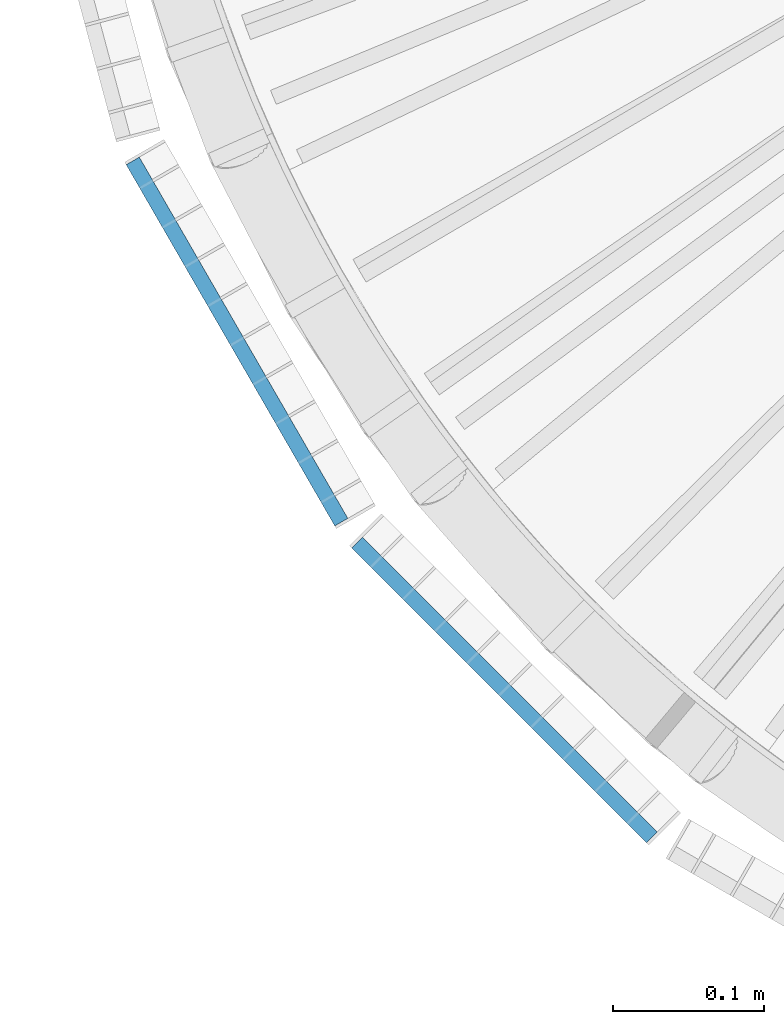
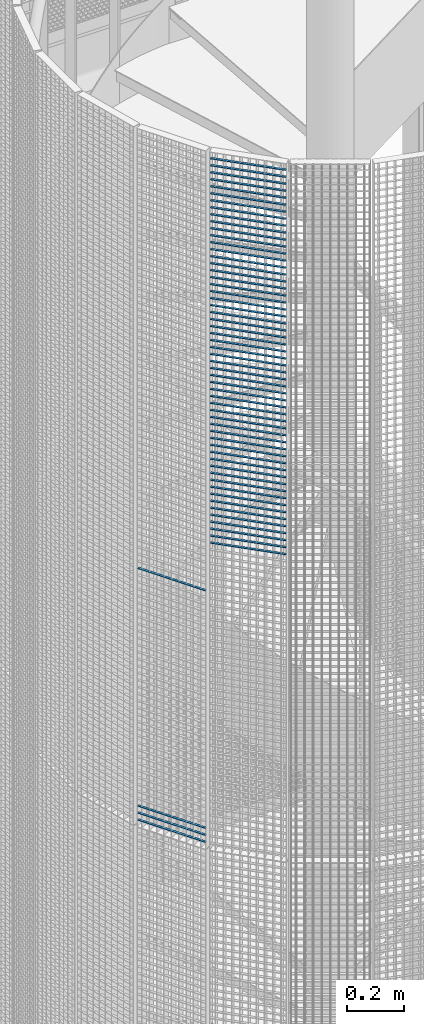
# One storey, part 327 of 1148: 60 beams, 2 elements without a shape of their own.
"""IFC2X3 building model written with IfcOpenShell, lengths in millimetres."""

from ifc_helpers import new_model, si_unit, frame, origin_with_axes, origin_2d_with_axis, place, context, subcontext, project, spatial, rectangle, extrude, material, type_object, element, aggregate, save


model = new_model("IFC2X3")

# Units and contexts
model_context = context("Model", 3, precision=1e-05, world=origin_with_axes())
body_context = subcontext(model_context, "Body", "Model", "MODEL_VIEW")
ifc_project = project(units=[si_unit("LENGTHUNIT", "METRE", prefix="MILLI"), si_unit("AREAUNIT", "SQUARE_METRE"), si_unit("VOLUMEUNIT", "CUBIC_METRE"), si_unit("MASSUNIT", "GRAM", prefix="KILO"), si_unit("TIMEUNIT", "SECOND"), si_unit("PLANEANGLEUNIT", "RADIAN"), si_unit("SOLIDANGLEUNIT", "STERADIAN"), si_unit("THERMODYNAMICTEMPERATUREUNIT", "DEGREE_CELSIUS"), si_unit("LUMINOUSINTENSITYUNIT", "LUMEN")], contexts=[model_context])

# Site, building, storey
site_placement = place(None, origin_with_axes())
site = spatial("IfcSite", under=ifc_project, at=site_placement, Name="Undefined", CompositionType="ELEMENT")
building_placement = place(site_placement, origin_with_axes())
building = spatial("IfcBuilding", under=site, at=building_placement, Name="Undefined", CompositionType="ELEMENT")
storey_placement = place(building_placement, origin_with_axes())
storey = spatial("IfcBuildingStorey", under=building, at=storey_placement, Name="Undefined", CompositionType="ELEMENT", Elevation=0.0)

# Assembly, beams
assembly_1_placement = place(storey_placement, origin_with_axes())
assembly_1 = element("IfcElementAssembly", 1, at=assembly_1_placement, inside=storey, Name="BORDURE", AssemblyPlace="NOTDEFINED", PredefinedType="NOTDEFINED")
ifc_material = material(Name="STEEL/S235JR")
beam_type = type_object("IfcBeamType", Name="PL2*10", PredefinedType="NOTDEFINED")
beam_1_placement = place(assembly_1_placement, frame((20704.6960350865, -676.248044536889, 15090.0), z_axis=(-0.866025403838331, -0.499999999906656, 0.0), x_axis=(-0.49999999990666, 0.866025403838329, 0.0)))
beam_1 = element("IfcBeam", 2, at=beam_1_placement, type_object=beam_type, material=ifc_material, Name="ENTRETOISE", context=body_context, shape_type="SweptSolid", body=[
    extrude(rectangle(XDim=2.0, YDim=10.0, at=origin_2d_with_axis()), frame((275.999999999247, 9.09494701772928e-13, 1.53210777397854e-14), z_axis=(-1.0, 0.0, 0.0), x_axis=(0.0, -1.0, 0.0)), (0.0, 0.0, 1.0), 276.0),
])
beam_2_placement = place(assembly_1_placement, frame((20704.6960350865, -676.248044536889, 15060.0), z_axis=(-0.866025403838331, -0.499999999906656, 0.0), x_axis=(-0.49999999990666, 0.866025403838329, 0.0)))
beam_2 = element("IfcBeam", 3, at=beam_2_placement, type_object=beam_type, material=ifc_material, Name="ENTRETOISE", context=body_context, shape_type="SweptSolid", body=[
    extrude(rectangle(XDim=2.0, YDim=10.0, at=origin_2d_with_axis()), frame((275.999999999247, 9.09494701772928e-13, 1.53210777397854e-14), z_axis=(-1.0, 0.0, 0.0), x_axis=(0.0, -1.0, 0.0)), (0.0, 0.0, 1.0), 276.0),
])
beam_3_placement = place(assembly_1_placement, frame((20704.6960350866, -676.248044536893, 16110.0), z_axis=(-0.866025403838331, -0.499999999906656, 0.0), x_axis=(-0.49999999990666, 0.866025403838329, 0.0)))
beam_3 = element("IfcBeam", 4, at=beam_3_placement, type_object=beam_type, material=ifc_material, Name="ENTRETOISE", context=body_context, shape_type="SweptSolid", body=[
    extrude(rectangle(XDim=2.0, YDim=10.0, at=origin_2d_with_axis()), frame((275.999999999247, 9.09494701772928e-13, 1.53210777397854e-14), z_axis=(-1.0, 0.0, 0.0), x_axis=(0.0, -1.0, 0.0)), (0.0, 0.0, 1.0), 276.0),
])
beam_4_placement = place(assembly_1_placement, frame((20704.6960350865, -676.248044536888, 15030.0), z_axis=(-0.866025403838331, -0.499999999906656, 0.0), x_axis=(-0.49999999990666, 0.866025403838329, 0.0)))
beam_4 = element("IfcBeam", 5, at=beam_4_placement, type_object=beam_type, material=ifc_material, Name="ENTRETOISE", context=body_context, shape_type="SweptSolid", body=[
    extrude(rectangle(XDim=2.0, YDim=10.0, at=origin_2d_with_axis()), frame((275.999999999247, 9.09494701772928e-13, 1.53210777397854e-14), z_axis=(-1.0, 0.0, 0.0), x_axis=(0.0, -1.0, 0.0)), (0.0, 0.0, 1.0), 276.0),
])
aggregate(assembly_1, [beam_1, beam_2, beam_3, beam_4])

assembly_2_placement = place(storey_placement, origin_with_axes())
assembly_2 = element("IfcElementAssembly", 6, at=assembly_2_placement, inside=storey, Name="BORDURE", AssemblyPlace="NOTDEFINED", PredefinedType="NOTDEFINED")
beam_5_placement = place(assembly_2_placement, frame((20910.2286510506, -884.927168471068, 17970.0), z_axis=(-0.70710678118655, -0.707106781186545, 0.0), x_axis=(-0.707106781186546, 0.707106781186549, 0.0)))
beam_5 = element("IfcBeam", 7, at=beam_5_placement, type_object=beam_type, material=ifc_material, Name="ENTRETOISE", context=body_context, shape_type="SweptSolid", body=[
    extrude(rectangle(XDim=2.0, YDim=10.0, at=origin_2d_with_axis()), frame((275.999999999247, 9.09494701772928e-13, 1.53210777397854e-14), z_axis=(-1.0, 0.0, 0.0), x_axis=(0.0, -1.0, 0.0)), (0.0, 0.0, 1.0), 276.0),
])
beam_6_placement = place(assembly_2_placement, frame((20910.2286510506, -884.927168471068, 17940.0), z_axis=(-0.70710678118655, -0.707106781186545, 0.0), x_axis=(-0.707106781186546, 0.707106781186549, 0.0)))
beam_6 = element("IfcBeam", 8, at=beam_6_placement, type_object=beam_type, material=ifc_material, Name="ENTRETOISE", context=body_context, shape_type="SweptSolid", body=[
    extrude(rectangle(XDim=2.0, YDim=10.0, at=origin_2d_with_axis()), frame((275.999999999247, 9.09494701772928e-13, 1.53210777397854e-14), z_axis=(-1.0, 0.0, 0.0), x_axis=(0.0, -1.0, 0.0)), (0.0, 0.0, 1.0), 276.0),
])
beam_7_placement = place(assembly_2_placement, frame((20910.2286510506, -884.927168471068, 17910.0), z_axis=(-0.70710678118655, -0.707106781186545, 0.0), x_axis=(-0.707106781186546, 0.707106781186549, 0.0)))
beam_7 = element("IfcBeam", 9, at=beam_7_placement, type_object=beam_type, material=ifc_material, Name="ENTRETOISE", context=body_context, shape_type="SweptSolid", body=[
    extrude(rectangle(XDim=2.0, YDim=10.0, at=origin_2d_with_axis()), frame((275.999999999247, 9.09494701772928e-13, 1.53210777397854e-14), z_axis=(-1.0, 0.0, 0.0), x_axis=(0.0, -1.0, 0.0)), (0.0, 0.0, 1.0), 276.0),
])
beam_8_placement = place(assembly_2_placement, frame((20910.2286510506, -884.927168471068, 17880.0), z_axis=(-0.70710678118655, -0.707106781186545, 0.0), x_axis=(-0.707106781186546, 0.707106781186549, 0.0)))
beam_8 = element("IfcBeam", 10, at=beam_8_placement, type_object=beam_type, material=ifc_material, Name="ENTRETOISE", context=body_context, shape_type="SweptSolid", body=[
    extrude(rectangle(XDim=2.0, YDim=10.0, at=origin_2d_with_axis()), frame((275.999999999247, 9.09494701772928e-13, 1.53210777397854e-14), z_axis=(-1.0, 0.0, 0.0), x_axis=(0.0, -1.0, 0.0)), (0.0, 0.0, 1.0), 276.0),
])
beam_9_placement = place(assembly_2_placement, frame((20910.2286510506, -884.927168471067, 17850.0), z_axis=(-0.70710678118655, -0.707106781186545, 0.0), x_axis=(-0.707106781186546, 0.707106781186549, 0.0)))
beam_9 = element("IfcBeam", 11, at=beam_9_placement, type_object=beam_type, material=ifc_material, Name="ENTRETOISE", context=body_context, shape_type="SweptSolid", body=[
    extrude(rectangle(XDim=2.0, YDim=10.0, at=origin_2d_with_axis()), frame((275.999999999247, 9.09494701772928e-13, 1.53210777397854e-14), z_axis=(-1.0, 0.0, 0.0), x_axis=(0.0, -1.0, 0.0)), (0.0, 0.0, 1.0), 276.0),
])
beam_10_placement = place(assembly_2_placement, frame((20910.2286510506, -884.927168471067, 17820.0), z_axis=(-0.70710678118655, -0.707106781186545, 0.0), x_axis=(-0.707106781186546, 0.707106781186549, 0.0)))
beam_10 = element("IfcBeam", 12, at=beam_10_placement, type_object=beam_type, material=ifc_material, Name="ENTRETOISE", context=body_context, shape_type="SweptSolid", body=[
    extrude(rectangle(XDim=2.0, YDim=10.0, at=origin_2d_with_axis()), frame((275.999999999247, 9.09494701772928e-13, 1.53210777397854e-14), z_axis=(-1.0, 0.0, 0.0), x_axis=(0.0, -1.0, 0.0)), (0.0, 0.0, 1.0), 276.0),
])
beam_11_placement = place(assembly_2_placement, frame((20910.2286510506, -884.927168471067, 17790.0), z_axis=(-0.70710678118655, -0.707106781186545, 0.0), x_axis=(-0.707106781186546, 0.707106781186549, 0.0)))
beam_11 = element("IfcBeam", 13, at=beam_11_placement, type_object=beam_type, material=ifc_material, Name="ENTRETOISE", context=body_context, shape_type="SweptSolid", body=[
    extrude(rectangle(XDim=2.0, YDim=10.0, at=origin_2d_with_axis()), frame((275.999999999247, 9.09494701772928e-13, 1.53210777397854e-14), z_axis=(-1.0, 0.0, 0.0), x_axis=(0.0, -1.0, 0.0)), (0.0, 0.0, 1.0), 276.0),
])
beam_12_placement = place(assembly_2_placement, frame((20910.2286510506, -884.927168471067, 17760.0), z_axis=(-0.70710678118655, -0.707106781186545, 0.0), x_axis=(-0.707106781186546, 0.707106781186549, 0.0)))
beam_12 = element("IfcBeam", 14, at=beam_12_placement, type_object=beam_type, material=ifc_material, Name="ENTRETOISE", context=body_context, shape_type="SweptSolid", body=[
    extrude(rectangle(XDim=2.0, YDim=10.0, at=origin_2d_with_axis()), frame((275.999999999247, 9.09494701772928e-13, 1.53210777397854e-14), z_axis=(-1.0, 0.0, 0.0), x_axis=(0.0, -1.0, 0.0)), (0.0, 0.0, 1.0), 276.0),
])
beam_13_placement = place(assembly_2_placement, frame((20910.2286510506, -884.927168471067, 17730.0), z_axis=(-0.70710678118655, -0.707106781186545, 0.0), x_axis=(-0.707106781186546, 0.707106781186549, 0.0)))
beam_13 = element("IfcBeam", 15, at=beam_13_placement, type_object=beam_type, material=ifc_material, Name="ENTRETOISE", context=body_context, shape_type="SweptSolid", body=[
    extrude(rectangle(XDim=2.0, YDim=10.0, at=origin_2d_with_axis()), frame((275.999999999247, 9.09494701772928e-13, 1.53210777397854e-14), z_axis=(-1.0, 0.0, 0.0), x_axis=(0.0, -1.0, 0.0)), (0.0, 0.0, 1.0), 276.0),
])
beam_14_placement = place(assembly_2_placement, frame((20910.2286510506, -884.927168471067, 17700.0), z_axis=(-0.70710678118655, -0.707106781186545, 0.0), x_axis=(-0.707106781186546, 0.707106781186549, 0.0)))
beam_14 = element("IfcBeam", 16, at=beam_14_placement, type_object=beam_type, material=ifc_material, Name="ENTRETOISE", context=body_context, shape_type="SweptSolid", body=[
    extrude(rectangle(XDim=2.0, YDim=10.0, at=origin_2d_with_axis()), frame((275.999999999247, 9.09494701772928e-13, 1.53210777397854e-14), z_axis=(-1.0, 0.0, 0.0), x_axis=(0.0, -1.0, 0.0)), (0.0, 0.0, 1.0), 276.0),
])
beam_15_placement = place(assembly_2_placement, frame((20910.2286510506, -884.927168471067, 17670.0), z_axis=(-0.70710678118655, -0.707106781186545, 0.0), x_axis=(-0.707106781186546, 0.707106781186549, 0.0)))
beam_15 = element("IfcBeam", 17, at=beam_15_placement, type_object=beam_type, material=ifc_material, Name="ENTRETOISE", context=body_context, shape_type="SweptSolid", body=[
    extrude(rectangle(XDim=2.0, YDim=10.0, at=origin_2d_with_axis()), frame((275.999999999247, 9.09494701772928e-13, 1.53210777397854e-14), z_axis=(-1.0, 0.0, 0.0), x_axis=(0.0, -1.0, 0.0)), (0.0, 0.0, 1.0), 276.0),
])
beam_16_placement = place(assembly_2_placement, frame((20910.2286510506, -884.927168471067, 17640.0), z_axis=(-0.70710678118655, -0.707106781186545, 0.0), x_axis=(-0.707106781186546, 0.707106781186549, 0.0)))
beam_16 = element("IfcBeam", 18, at=beam_16_placement, type_object=beam_type, material=ifc_material, Name="ENTRETOISE", context=body_context, shape_type="SweptSolid", body=[
    extrude(rectangle(XDim=2.0, YDim=10.0, at=origin_2d_with_axis()), frame((275.999999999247, 9.09494701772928e-13, 1.53210777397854e-14), z_axis=(-1.0, 0.0, 0.0), x_axis=(0.0, -1.0, 0.0)), (0.0, 0.0, 1.0), 276.0),
])
beam_17_placement = place(assembly_2_placement, frame((20910.2286510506, -884.927168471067, 17610.0), z_axis=(-0.70710678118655, -0.707106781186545, 0.0), x_axis=(-0.707106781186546, 0.707106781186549, 0.0)))
beam_17 = element("IfcBeam", 19, at=beam_17_placement, type_object=beam_type, material=ifc_material, Name="ENTRETOISE", context=body_context, shape_type="SweptSolid", body=[
    extrude(rectangle(XDim=2.0, YDim=10.0, at=origin_2d_with_axis()), frame((275.999999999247, 9.09494701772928e-13, 1.53210777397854e-14), z_axis=(-1.0, 0.0, 0.0), x_axis=(0.0, -1.0, 0.0)), (0.0, 0.0, 1.0), 276.0),
])
beam_18_placement = place(assembly_2_placement, frame((20910.2286510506, -884.927168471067, 17580.0), z_axis=(-0.70710678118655, -0.707106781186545, 0.0), x_axis=(-0.707106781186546, 0.707106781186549, 0.0)))
beam_18 = element("IfcBeam", 20, at=beam_18_placement, type_object=beam_type, material=ifc_material, Name="ENTRETOISE", context=body_context, shape_type="SweptSolid", body=[
    extrude(rectangle(XDim=2.0, YDim=10.0, at=origin_2d_with_axis()), frame((275.999999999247, 9.09494701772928e-13, 1.53210777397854e-14), z_axis=(-1.0, 0.0, 0.0), x_axis=(0.0, -1.0, 0.0)), (0.0, 0.0, 1.0), 276.0),
])
beam_19_placement = place(assembly_2_placement, frame((20910.2286510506, -884.927168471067, 17550.0), z_axis=(-0.70710678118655, -0.707106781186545, 0.0), x_axis=(-0.707106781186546, 0.707106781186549, 0.0)))
beam_19 = element("IfcBeam", 21, at=beam_19_placement, type_object=beam_type, material=ifc_material, Name="ENTRETOISE", context=body_context, shape_type="SweptSolid", body=[
    extrude(rectangle(XDim=2.0, YDim=10.0, at=origin_2d_with_axis()), frame((275.999999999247, 9.09494701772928e-13, 1.53210777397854e-14), z_axis=(-1.0, 0.0, 0.0), x_axis=(0.0, -1.0, 0.0)), (0.0, 0.0, 1.0), 276.0),
])
beam_20_placement = place(assembly_2_placement, frame((20910.2286510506, -884.927168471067, 17520.0), z_axis=(-0.70710678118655, -0.707106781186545, 0.0), x_axis=(-0.707106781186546, 0.707106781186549, 0.0)))
beam_20 = element("IfcBeam", 22, at=beam_20_placement, type_object=beam_type, material=ifc_material, Name="ENTRETOISE", context=body_context, shape_type="SweptSolid", body=[
    extrude(rectangle(XDim=2.0, YDim=10.0, at=origin_2d_with_axis()), frame((275.999999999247, 9.09494701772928e-13, 1.53210777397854e-14), z_axis=(-1.0, 0.0, 0.0), x_axis=(0.0, -1.0, 0.0)), (0.0, 0.0, 1.0), 276.0),
])
beam_21_placement = place(assembly_2_placement, frame((20910.2286510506, -884.927168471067, 17490.0), z_axis=(-0.70710678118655, -0.707106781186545, 0.0), x_axis=(-0.707106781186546, 0.707106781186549, 0.0)))
beam_21 = element("IfcBeam", 23, at=beam_21_placement, type_object=beam_type, material=ifc_material, Name="ENTRETOISE", context=body_context, shape_type="SweptSolid", body=[
    extrude(rectangle(XDim=2.0, YDim=10.0, at=origin_2d_with_axis()), frame((275.999999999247, 9.09494701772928e-13, 1.53210777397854e-14), z_axis=(-1.0, 0.0, 0.0), x_axis=(0.0, -1.0, 0.0)), (0.0, 0.0, 1.0), 276.0),
])
beam_22_placement = place(assembly_2_placement, frame((20910.2286510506, -884.927168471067, 17460.0), z_axis=(-0.70710678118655, -0.707106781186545, 0.0), x_axis=(-0.707106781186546, 0.707106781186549, 0.0)))
beam_22 = element("IfcBeam", 24, at=beam_22_placement, type_object=beam_type, material=ifc_material, Name="ENTRETOISE", context=body_context, shape_type="SweptSolid", body=[
    extrude(rectangle(XDim=2.0, YDim=10.0, at=origin_2d_with_axis()), frame((275.999999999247, 9.09494701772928e-13, 1.53210777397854e-14), z_axis=(-1.0, 0.0, 0.0), x_axis=(0.0, -1.0, 0.0)), (0.0, 0.0, 1.0), 276.0),
])
beam_23_placement = place(assembly_2_placement, frame((20910.2286510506, -884.927168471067, 17430.0), z_axis=(-0.70710678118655, -0.707106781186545, 0.0), x_axis=(-0.707106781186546, 0.707106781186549, 0.0)))
beam_23 = element("IfcBeam", 25, at=beam_23_placement, type_object=beam_type, material=ifc_material, Name="ENTRETOISE", context=body_context, shape_type="SweptSolid", body=[
    extrude(rectangle(XDim=2.0, YDim=10.0, at=origin_2d_with_axis()), frame((275.999999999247, 9.09494701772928e-13, 1.53210777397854e-14), z_axis=(-1.0, 0.0, 0.0), x_axis=(0.0, -1.0, 0.0)), (0.0, 0.0, 1.0), 276.0),
])
beam_24_placement = place(assembly_2_placement, frame((20910.2286510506, -884.927168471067, 17400.0), z_axis=(-0.70710678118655, -0.707106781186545, 0.0), x_axis=(-0.707106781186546, 0.707106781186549, 0.0)))
beam_24 = element("IfcBeam", 26, at=beam_24_placement, type_object=beam_type, material=ifc_material, Name="ENTRETOISE", context=body_context, shape_type="SweptSolid", body=[
    extrude(rectangle(XDim=2.0, YDim=10.0, at=origin_2d_with_axis()), frame((275.999999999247, 9.09494701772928e-13, 1.53210777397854e-14), z_axis=(-1.0, 0.0, 0.0), x_axis=(0.0, -1.0, 0.0)), (0.0, 0.0, 1.0), 276.0),
])
beam_25_placement = place(assembly_2_placement, frame((20910.2286510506, -884.927168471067, 17370.0), z_axis=(-0.70710678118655, -0.707106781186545, 0.0), x_axis=(-0.707106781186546, 0.707106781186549, 0.0)))
beam_25 = element("IfcBeam", 27, at=beam_25_placement, type_object=beam_type, material=ifc_material, Name="ENTRETOISE", context=body_context, shape_type="SweptSolid", body=[
    extrude(rectangle(XDim=2.0, YDim=10.0, at=origin_2d_with_axis()), frame((275.999999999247, 9.09494701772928e-13, 1.53210777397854e-14), z_axis=(-1.0, 0.0, 0.0), x_axis=(0.0, -1.0, 0.0)), (0.0, 0.0, 1.0), 276.0),
])
beam_26_placement = place(assembly_2_placement, frame((20910.2286510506, -884.927168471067, 17340.0), z_axis=(-0.70710678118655, -0.707106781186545, 0.0), x_axis=(-0.707106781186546, 0.707106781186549, 0.0)))
beam_26 = element("IfcBeam", 28, at=beam_26_placement, type_object=beam_type, material=ifc_material, Name="ENTRETOISE", context=body_context, shape_type="SweptSolid", body=[
    extrude(rectangle(XDim=2.0, YDim=10.0, at=origin_2d_with_axis()), frame((275.999999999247, 9.09494701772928e-13, 1.53210777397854e-14), z_axis=(-1.0, 0.0, 0.0), x_axis=(0.0, -1.0, 0.0)), (0.0, 0.0, 1.0), 276.0),
])
beam_27_placement = place(assembly_2_placement, frame((20910.2286510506, -884.927168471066, 17310.0), z_axis=(-0.70710678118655, -0.707106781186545, 0.0), x_axis=(-0.707106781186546, 0.707106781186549, 0.0)))
beam_27 = element("IfcBeam", 29, at=beam_27_placement, type_object=beam_type, material=ifc_material, Name="ENTRETOISE", context=body_context, shape_type="SweptSolid", body=[
    extrude(rectangle(XDim=2.0, YDim=10.0, at=origin_2d_with_axis()), frame((275.999999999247, 9.09494701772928e-13, 1.53210777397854e-14), z_axis=(-1.0, 0.0, 0.0), x_axis=(0.0, -1.0, 0.0)), (0.0, 0.0, 1.0), 276.0),
])
beam_28_placement = place(assembly_2_placement, frame((20910.2286510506, -884.927168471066, 17280.0), z_axis=(-0.70710678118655, -0.707106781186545, 0.0), x_axis=(-0.707106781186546, 0.707106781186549, 0.0)))
beam_28 = element("IfcBeam", 30, at=beam_28_placement, type_object=beam_type, material=ifc_material, Name="ENTRETOISE", context=body_context, shape_type="SweptSolid", body=[
    extrude(rectangle(XDim=2.0, YDim=10.0, at=origin_2d_with_axis()), frame((275.999999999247, 9.09494701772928e-13, 1.53210777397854e-14), z_axis=(-1.0, 0.0, 0.0), x_axis=(0.0, -1.0, 0.0)), (0.0, 0.0, 1.0), 276.0),
])
beam_29_placement = place(assembly_2_placement, frame((20910.2286510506, -884.927168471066, 17250.0), z_axis=(-0.70710678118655, -0.707106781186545, 0.0), x_axis=(-0.707106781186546, 0.707106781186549, 0.0)))
beam_29 = element("IfcBeam", 31, at=beam_29_placement, type_object=beam_type, material=ifc_material, Name="ENTRETOISE", context=body_context, shape_type="SweptSolid", body=[
    extrude(rectangle(XDim=2.0, YDim=10.0, at=origin_2d_with_axis()), frame((275.999999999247, 9.09494701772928e-13, 1.53210777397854e-14), z_axis=(-1.0, 0.0, 0.0), x_axis=(0.0, -1.0, 0.0)), (0.0, 0.0, 1.0), 276.0),
])
beam_30_placement = place(assembly_2_placement, frame((20910.2286510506, -884.927168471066, 17220.0), z_axis=(-0.70710678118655, -0.707106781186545, 0.0), x_axis=(-0.707106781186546, 0.707106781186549, 0.0)))
beam_30 = element("IfcBeam", 32, at=beam_30_placement, type_object=beam_type, material=ifc_material, Name="ENTRETOISE", context=body_context, shape_type="SweptSolid", body=[
    extrude(rectangle(XDim=2.0, YDim=10.0, at=origin_2d_with_axis()), frame((275.999999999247, 9.09494701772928e-13, 1.53210777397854e-14), z_axis=(-1.0, 0.0, 0.0), x_axis=(0.0, -1.0, 0.0)), (0.0, 0.0, 1.0), 276.0),
])
beam_31_placement = place(assembly_2_placement, frame((20910.2286510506, -884.927168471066, 17190.0), z_axis=(-0.70710678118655, -0.707106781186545, 0.0), x_axis=(-0.707106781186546, 0.707106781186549, 0.0)))
beam_31 = element("IfcBeam", 33, at=beam_31_placement, type_object=beam_type, material=ifc_material, Name="ENTRETOISE", context=body_context, shape_type="SweptSolid", body=[
    extrude(rectangle(XDim=2.0, YDim=10.0, at=origin_2d_with_axis()), frame((275.999999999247, 9.09494701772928e-13, 1.53210777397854e-14), z_axis=(-1.0, 0.0, 0.0), x_axis=(0.0, -1.0, 0.0)), (0.0, 0.0, 1.0), 276.0),
])
beam_32_placement = place(assembly_2_placement, frame((20910.2286510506, -884.927168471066, 17160.0), z_axis=(-0.70710678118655, -0.707106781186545, 0.0), x_axis=(-0.707106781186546, 0.707106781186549, 0.0)))
beam_32 = element("IfcBeam", 34, at=beam_32_placement, type_object=beam_type, material=ifc_material, Name="ENTRETOISE", context=body_context, shape_type="SweptSolid", body=[
    extrude(rectangle(XDim=2.0, YDim=10.0, at=origin_2d_with_axis()), frame((275.999999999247, 9.09494701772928e-13, 1.53210777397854e-14), z_axis=(-1.0, 0.0, 0.0), x_axis=(0.0, -1.0, 0.0)), (0.0, 0.0, 1.0), 276.0),
])
beam_33_placement = place(assembly_2_placement, frame((20910.2286510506, -884.927168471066, 17130.0), z_axis=(-0.70710678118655, -0.707106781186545, 0.0), x_axis=(-0.707106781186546, 0.707106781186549, 0.0)))
beam_33 = element("IfcBeam", 35, at=beam_33_placement, type_object=beam_type, material=ifc_material, Name="ENTRETOISE", context=body_context, shape_type="SweptSolid", body=[
    extrude(rectangle(XDim=2.0, YDim=10.0, at=origin_2d_with_axis()), frame((275.999999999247, 9.09494701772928e-13, 1.53210777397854e-14), z_axis=(-1.0, 0.0, 0.0), x_axis=(0.0, -1.0, 0.0)), (0.0, 0.0, 1.0), 276.0),
])
beam_34_placement = place(assembly_2_placement, frame((20910.2286510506, -884.927168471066, 17100.0), z_axis=(-0.70710678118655, -0.707106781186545, 0.0), x_axis=(-0.707106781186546, 0.707106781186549, 0.0)))
beam_34 = element("IfcBeam", 36, at=beam_34_placement, type_object=beam_type, material=ifc_material, Name="ENTRETOISE", context=body_context, shape_type="SweptSolid", body=[
    extrude(rectangle(XDim=2.0, YDim=10.0, at=origin_2d_with_axis()), frame((275.999999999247, 9.09494701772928e-13, 1.53210777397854e-14), z_axis=(-1.0, 0.0, 0.0), x_axis=(0.0, -1.0, 0.0)), (0.0, 0.0, 1.0), 276.0),
])
beam_35_placement = place(assembly_2_placement, frame((20910.2286510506, -884.927168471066, 17070.0), z_axis=(-0.70710678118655, -0.707106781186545, 0.0), x_axis=(-0.707106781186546, 0.707106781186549, 0.0)))
beam_35 = element("IfcBeam", 37, at=beam_35_placement, type_object=beam_type, material=ifc_material, Name="ENTRETOISE", context=body_context, shape_type="SweptSolid", body=[
    extrude(rectangle(XDim=2.0, YDim=10.0, at=origin_2d_with_axis()), frame((275.999999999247, 9.09494701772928e-13, 1.53210777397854e-14), z_axis=(-1.0, 0.0, 0.0), x_axis=(0.0, -1.0, 0.0)), (0.0, 0.0, 1.0), 276.0),
])
beam_36_placement = place(assembly_2_placement, frame((20910.2286510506, -884.927168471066, 17040.0), z_axis=(-0.70710678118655, -0.707106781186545, 0.0), x_axis=(-0.707106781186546, 0.707106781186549, 0.0)))
beam_36 = element("IfcBeam", 38, at=beam_36_placement, type_object=beam_type, material=ifc_material, Name="ENTRETOISE", context=body_context, shape_type="SweptSolid", body=[
    extrude(rectangle(XDim=2.0, YDim=10.0, at=origin_2d_with_axis()), frame((275.999999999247, 9.09494701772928e-13, 1.53210777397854e-14), z_axis=(-1.0, 0.0, 0.0), x_axis=(0.0, -1.0, 0.0)), (0.0, 0.0, 1.0), 276.0),
])
beam_37_placement = place(assembly_2_placement, frame((20910.2286510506, -884.927168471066, 17010.0), z_axis=(-0.70710678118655, -0.707106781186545, 0.0), x_axis=(-0.707106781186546, 0.707106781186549, 0.0)))
beam_37 = element("IfcBeam", 39, at=beam_37_placement, type_object=beam_type, material=ifc_material, Name="ENTRETOISE", context=body_context, shape_type="SweptSolid", body=[
    extrude(rectangle(XDim=2.0, YDim=10.0, at=origin_2d_with_axis()), frame((275.999999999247, 9.09494701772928e-13, 1.53210777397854e-14), z_axis=(-1.0, 0.0, 0.0), x_axis=(0.0, -1.0, 0.0)), (0.0, 0.0, 1.0), 276.0),
])
beam_38_placement = place(assembly_2_placement, frame((20910.2286510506, -884.927168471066, 16980.0), z_axis=(-0.70710678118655, -0.707106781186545, 0.0), x_axis=(-0.707106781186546, 0.707106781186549, 0.0)))
beam_38 = element("IfcBeam", 40, at=beam_38_placement, type_object=beam_type, material=ifc_material, Name="ENTRETOISE", context=body_context, shape_type="SweptSolid", body=[
    extrude(rectangle(XDim=2.0, YDim=10.0, at=origin_2d_with_axis()), frame((275.999999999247, 9.09494701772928e-13, 1.53210777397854e-14), z_axis=(-1.0, 0.0, 0.0), x_axis=(0.0, -1.0, 0.0)), (0.0, 0.0, 1.0), 276.0),
])
beam_39_placement = place(assembly_2_placement, frame((20910.2286510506, -884.927168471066, 16950.0), z_axis=(-0.70710678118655, -0.707106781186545, 0.0), x_axis=(-0.707106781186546, 0.707106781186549, 0.0)))
beam_39 = element("IfcBeam", 41, at=beam_39_placement, type_object=beam_type, material=ifc_material, Name="ENTRETOISE", context=body_context, shape_type="SweptSolid", body=[
    extrude(rectangle(XDim=2.0, YDim=10.0, at=origin_2d_with_axis()), frame((275.999999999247, 9.09494701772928e-13, 1.53210777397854e-14), z_axis=(-1.0, 0.0, 0.0), x_axis=(0.0, -1.0, 0.0)), (0.0, 0.0, 1.0), 276.0),
])
beam_40_placement = place(assembly_2_placement, frame((20910.2286510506, -884.927168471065, 16920.0), z_axis=(-0.70710678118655, -0.707106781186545, 0.0), x_axis=(-0.707106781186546, 0.707106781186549, 0.0)))
beam_40 = element("IfcBeam", 42, at=beam_40_placement, type_object=beam_type, material=ifc_material, Name="ENTRETOISE", context=body_context, shape_type="SweptSolid", body=[
    extrude(rectangle(XDim=2.0, YDim=10.0, at=origin_2d_with_axis()), frame((275.999999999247, 9.09494701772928e-13, 1.53210777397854e-14), z_axis=(-1.0, 0.0, 0.0), x_axis=(0.0, -1.0, 0.0)), (0.0, 0.0, 1.0), 276.0),
])
beam_41_placement = place(assembly_2_placement, frame((20910.2286510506, -884.927168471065, 16890.0), z_axis=(-0.70710678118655, -0.707106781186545, 0.0), x_axis=(-0.707106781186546, 0.707106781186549, 0.0)))
beam_41 = element("IfcBeam", 43, at=beam_41_placement, type_object=beam_type, material=ifc_material, Name="ENTRETOISE", context=body_context, shape_type="SweptSolid", body=[
    extrude(rectangle(XDim=2.0, YDim=10.0, at=origin_2d_with_axis()), frame((275.999999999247, 9.09494701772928e-13, 1.53210777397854e-14), z_axis=(-1.0, 0.0, 0.0), x_axis=(0.0, -1.0, 0.0)), (0.0, 0.0, 1.0), 276.0),
])
beam_42_placement = place(assembly_2_placement, frame((20910.2286510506, -884.927168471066, 16860.0), z_axis=(-0.70710678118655, -0.707106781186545, 0.0), x_axis=(-0.707106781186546, 0.707106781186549, 0.0)))
beam_42 = element("IfcBeam", 44, at=beam_42_placement, type_object=beam_type, material=ifc_material, Name="ENTRETOISE", context=body_context, shape_type="SweptSolid", body=[
    extrude(rectangle(XDim=2.0, YDim=10.0, at=origin_2d_with_axis()), frame((275.999999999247, 9.09494701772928e-13, 1.53210777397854e-14), z_axis=(-1.0, 0.0, 0.0), x_axis=(0.0, -1.0, 0.0)), (0.0, 0.0, 1.0), 276.0),
])
beam_43_placement = place(assembly_2_placement, frame((20910.2286510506, -884.927168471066, 16830.0), z_axis=(-0.70710678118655, -0.707106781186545, 0.0), x_axis=(-0.707106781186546, 0.707106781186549, 0.0)))
beam_43 = element("IfcBeam", 45, at=beam_43_placement, type_object=beam_type, material=ifc_material, Name="ENTRETOISE", context=body_context, shape_type="SweptSolid", body=[
    extrude(rectangle(XDim=2.0, YDim=10.0, at=origin_2d_with_axis()), frame((275.999999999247, 9.09494701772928e-13, 1.53210777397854e-14), z_axis=(-1.0, 0.0, 0.0), x_axis=(0.0, -1.0, 0.0)), (0.0, 0.0, 1.0), 276.0),
])
beam_44_placement = place(assembly_2_placement, frame((20910.2286510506, -884.927168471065, 16800.0), z_axis=(-0.70710678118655, -0.707106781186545, 0.0), x_axis=(-0.707106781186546, 0.707106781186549, 0.0)))
beam_44 = element("IfcBeam", 46, at=beam_44_placement, type_object=beam_type, material=ifc_material, Name="ENTRETOISE", context=body_context, shape_type="SweptSolid", body=[
    extrude(rectangle(XDim=2.0, YDim=10.0, at=origin_2d_with_axis()), frame((275.999999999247, 9.09494701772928e-13, 1.53210777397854e-14), z_axis=(-1.0, 0.0, 0.0), x_axis=(0.0, -1.0, 0.0)), (0.0, 0.0, 1.0), 276.0),
])
beam_45_placement = place(assembly_2_placement, frame((20910.2286510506, -884.927168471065, 16770.0), z_axis=(-0.70710678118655, -0.707106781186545, 0.0), x_axis=(-0.707106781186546, 0.707106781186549, 0.0)))
beam_45 = element("IfcBeam", 47, at=beam_45_placement, type_object=beam_type, material=ifc_material, Name="ENTRETOISE", context=body_context, shape_type="SweptSolid", body=[
    extrude(rectangle(XDim=2.0, YDim=10.0, at=origin_2d_with_axis()), frame((275.999999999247, 9.09494701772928e-13, 1.53210777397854e-14), z_axis=(-1.0, 0.0, 0.0), x_axis=(0.0, -1.0, 0.0)), (0.0, 0.0, 1.0), 276.0),
])
beam_46_placement = place(assembly_2_placement, frame((20910.2286510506, -884.927168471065, 16740.0), z_axis=(-0.70710678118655, -0.707106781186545, 0.0), x_axis=(-0.707106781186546, 0.707106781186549, 0.0)))
beam_46 = element("IfcBeam", 48, at=beam_46_placement, type_object=beam_type, material=ifc_material, Name="ENTRETOISE", context=body_context, shape_type="SweptSolid", body=[
    extrude(rectangle(XDim=2.0, YDim=10.0, at=origin_2d_with_axis()), frame((275.999999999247, 9.09494701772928e-13, 1.53210777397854e-14), z_axis=(-1.0, 0.0, 0.0), x_axis=(0.0, -1.0, 0.0)), (0.0, 0.0, 1.0), 276.0),
])
beam_47_placement = place(assembly_2_placement, frame((20910.2286510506, -884.927168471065, 16710.0), z_axis=(-0.70710678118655, -0.707106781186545, 0.0), x_axis=(-0.707106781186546, 0.707106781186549, 0.0)))
beam_47 = element("IfcBeam", 49, at=beam_47_placement, type_object=beam_type, material=ifc_material, Name="ENTRETOISE", context=body_context, shape_type="SweptSolid", body=[
    extrude(rectangle(XDim=2.0, YDim=10.0, at=origin_2d_with_axis()), frame((275.999999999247, 9.09494701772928e-13, 1.53210777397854e-14), z_axis=(-1.0, 0.0, 0.0), x_axis=(0.0, -1.0, 0.0)), (0.0, 0.0, 1.0), 276.0),
])
beam_48_placement = place(assembly_2_placement, frame((20910.2286510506, -884.927168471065, 16680.0), z_axis=(-0.70710678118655, -0.707106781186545, 0.0), x_axis=(-0.707106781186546, 0.707106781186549, 0.0)))
beam_48 = element("IfcBeam", 50, at=beam_48_placement, type_object=beam_type, material=ifc_material, Name="ENTRETOISE", context=body_context, shape_type="SweptSolid", body=[
    extrude(rectangle(XDim=2.0, YDim=10.0, at=origin_2d_with_axis()), frame((275.999999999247, 9.09494701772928e-13, 1.53210777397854e-14), z_axis=(-1.0, 0.0, 0.0), x_axis=(0.0, -1.0, 0.0)), (0.0, 0.0, 1.0), 276.0),
])
beam_49_placement = place(assembly_2_placement, frame((20910.2286510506, -884.927168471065, 16650.0), z_axis=(-0.70710678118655, -0.707106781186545, 0.0), x_axis=(-0.707106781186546, 0.707106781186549, 0.0)))
beam_49 = element("IfcBeam", 51, at=beam_49_placement, type_object=beam_type, material=ifc_material, Name="ENTRETOISE", context=body_context, shape_type="SweptSolid", body=[
    extrude(rectangle(XDim=2.0, YDim=10.0, at=origin_2d_with_axis()), frame((275.999999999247, 9.09494701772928e-13, 1.53210777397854e-14), z_axis=(-1.0, 0.0, 0.0), x_axis=(0.0, -1.0, 0.0)), (0.0, 0.0, 1.0), 276.0),
])
beam_50_placement = place(assembly_2_placement, frame((20910.2286510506, -884.927168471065, 16620.0), z_axis=(-0.70710678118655, -0.707106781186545, 0.0), x_axis=(-0.707106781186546, 0.707106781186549, 0.0)))
beam_50 = element("IfcBeam", 52, at=beam_50_placement, type_object=beam_type, material=ifc_material, Name="ENTRETOISE", context=body_context, shape_type="SweptSolid", body=[
    extrude(rectangle(XDim=2.0, YDim=10.0, at=origin_2d_with_axis()), frame((275.999999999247, 9.09494701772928e-13, 1.53210777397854e-14), z_axis=(-1.0, 0.0, 0.0), x_axis=(0.0, -1.0, 0.0)), (0.0, 0.0, 1.0), 276.0),
])
beam_51_placement = place(assembly_2_placement, frame((20910.2286510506, -884.927168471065, 16590.0), z_axis=(-0.70710678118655, -0.707106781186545, 0.0), x_axis=(-0.707106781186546, 0.707106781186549, 0.0)))
beam_51 = element("IfcBeam", 53, at=beam_51_placement, type_object=beam_type, material=ifc_material, Name="ENTRETOISE", context=body_context, shape_type="SweptSolid", body=[
    extrude(rectangle(XDim=2.0, YDim=10.0, at=origin_2d_with_axis()), frame((275.999999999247, 9.09494701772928e-13, 1.53210777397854e-14), z_axis=(-1.0, 0.0, 0.0), x_axis=(0.0, -1.0, 0.0)), (0.0, 0.0, 1.0), 276.0),
])
beam_52_placement = place(assembly_2_placement, frame((20910.2286510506, -884.927168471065, 16560.0), z_axis=(-0.70710678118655, -0.707106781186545, 0.0), x_axis=(-0.707106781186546, 0.707106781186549, 0.0)))
beam_52 = element("IfcBeam", 54, at=beam_52_placement, type_object=beam_type, material=ifc_material, Name="ENTRETOISE", context=body_context, shape_type="SweptSolid", body=[
    extrude(rectangle(XDim=2.0, YDim=10.0, at=origin_2d_with_axis()), frame((275.999999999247, 9.09494701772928e-13, 1.53210777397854e-14), z_axis=(-1.0, 0.0, 0.0), x_axis=(0.0, -1.0, 0.0)), (0.0, 0.0, 1.0), 276.0),
])
beam_53_placement = place(assembly_2_placement, frame((20910.2286510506, -884.927168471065, 16530.0), z_axis=(-0.70710678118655, -0.707106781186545, 0.0), x_axis=(-0.707106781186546, 0.707106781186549, 0.0)))
beam_53 = element("IfcBeam", 55, at=beam_53_placement, type_object=beam_type, material=ifc_material, Name="ENTRETOISE", context=body_context, shape_type="SweptSolid", body=[
    extrude(rectangle(XDim=2.0, YDim=10.0, at=origin_2d_with_axis()), frame((275.999999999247, 9.09494701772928e-13, 1.53210777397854e-14), z_axis=(-1.0, 0.0, 0.0), x_axis=(0.0, -1.0, 0.0)), (0.0, 0.0, 1.0), 276.0),
])
beam_54_placement = place(assembly_2_placement, frame((20910.2286510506, -884.927168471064, 16500.0), z_axis=(-0.70710678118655, -0.707106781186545, 0.0), x_axis=(-0.707106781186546, 0.707106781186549, 0.0)))
beam_54 = element("IfcBeam", 56, at=beam_54_placement, type_object=beam_type, material=ifc_material, Name="ENTRETOISE", context=body_context, shape_type="SweptSolid", body=[
    extrude(rectangle(XDim=2.0, YDim=10.0, at=origin_2d_with_axis()), frame((275.999999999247, 9.09494701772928e-13, 1.53210777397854e-14), z_axis=(-1.0, 0.0, 0.0), x_axis=(0.0, -1.0, 0.0)), (0.0, 0.0, 1.0), 276.0),
])
beam_55_placement = place(assembly_2_placement, frame((20910.2286510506, -884.927168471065, 16470.0), z_axis=(-0.70710678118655, -0.707106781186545, 0.0), x_axis=(-0.707106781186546, 0.707106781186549, 0.0)))
beam_55 = element("IfcBeam", 57, at=beam_55_placement, type_object=beam_type, material=ifc_material, Name="ENTRETOISE", context=body_context, shape_type="SweptSolid", body=[
    extrude(rectangle(XDim=2.0, YDim=10.0, at=origin_2d_with_axis()), frame((275.999999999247, 9.09494701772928e-13, 1.53210777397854e-14), z_axis=(-1.0, 0.0, 0.0), x_axis=(0.0, -1.0, 0.0)), (0.0, 0.0, 1.0), 276.0),
])
beam_56_placement = place(assembly_2_placement, frame((20910.2286510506, -884.927168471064, 16440.0), z_axis=(-0.70710678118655, -0.707106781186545, 0.0), x_axis=(-0.707106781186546, 0.707106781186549, 0.0)))
beam_56 = element("IfcBeam", 58, at=beam_56_placement, type_object=beam_type, material=ifc_material, Name="ENTRETOISE", context=body_context, shape_type="SweptSolid", body=[
    extrude(rectangle(XDim=2.0, YDim=10.0, at=origin_2d_with_axis()), frame((275.999999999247, 9.09494701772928e-13, 1.53210777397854e-14), z_axis=(-1.0, 0.0, 0.0), x_axis=(0.0, -1.0, 0.0)), (0.0, 0.0, 1.0), 276.0),
])
beam_57_placement = place(assembly_2_placement, frame((20910.2286510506, -884.927168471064, 16410.0), z_axis=(-0.70710678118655, -0.707106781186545, 0.0), x_axis=(-0.707106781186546, 0.707106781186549, 0.0)))
beam_57 = element("IfcBeam", 59, at=beam_57_placement, type_object=beam_type, material=ifc_material, Name="ENTRETOISE", context=body_context, shape_type="SweptSolid", body=[
    extrude(rectangle(XDim=2.0, YDim=10.0, at=origin_2d_with_axis()), frame((275.999999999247, 9.09494701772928e-13, 1.53210777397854e-14), z_axis=(-1.0, 0.0, 0.0), x_axis=(0.0, -1.0, 0.0)), (0.0, 0.0, 1.0), 276.0),
])
beam_58_placement = place(assembly_2_placement, frame((20910.2286510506, -884.927168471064, 16380.0), z_axis=(-0.70710678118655, -0.707106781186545, 0.0), x_axis=(-0.707106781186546, 0.707106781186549, 0.0)))
beam_58 = element("IfcBeam", 60, at=beam_58_placement, type_object=beam_type, material=ifc_material, Name="ENTRETOISE", context=body_context, shape_type="SweptSolid", body=[
    extrude(rectangle(XDim=2.0, YDim=10.0, at=origin_2d_with_axis()), frame((275.999999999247, 9.09494701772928e-13, 1.53210777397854e-14), z_axis=(-1.0, 0.0, 0.0), x_axis=(0.0, -1.0, 0.0)), (0.0, 0.0, 1.0), 276.0),
])
beam_59_placement = place(assembly_2_placement, frame((20910.2286510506, -884.927168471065, 16350.0), z_axis=(-0.70710678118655, -0.707106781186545, 0.0), x_axis=(-0.707106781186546, 0.707106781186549, 0.0)))
beam_59 = element("IfcBeam", 61, at=beam_59_placement, type_object=beam_type, material=ifc_material, Name="ENTRETOISE", context=body_context, shape_type="SweptSolid", body=[
    extrude(rectangle(XDim=2.0, YDim=10.0, at=origin_2d_with_axis()), frame((275.999999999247, 9.09494701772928e-13, 1.53210777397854e-14), z_axis=(-1.0, 0.0, 0.0), x_axis=(0.0, -1.0, 0.0)), (0.0, 0.0, 1.0), 276.0),
])
beam_60_placement = place(assembly_2_placement, frame((20910.2286510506, -884.927168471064, 16320.0), z_axis=(-0.70710678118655, -0.707106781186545, 0.0), x_axis=(-0.707106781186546, 0.707106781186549, 0.0)))
beam_60 = element("IfcBeam", 62, at=beam_60_placement, type_object=beam_type, material=ifc_material, Name="ENTRETOISE", context=body_context, shape_type="SweptSolid", body=[
    extrude(rectangle(XDim=2.0, YDim=10.0, at=origin_2d_with_axis()), frame((275.999999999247, 9.09494701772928e-13, 1.53210777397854e-14), z_axis=(-1.0, 0.0, 0.0), x_axis=(0.0, -1.0, 0.0)), (0.0, 0.0, 1.0), 276.0),
])
aggregate(assembly_2, [beam_5, beam_6, beam_7, beam_8, beam_9, beam_10, beam_11, beam_12, beam_13, beam_14, beam_15, beam_16, beam_17, beam_18, beam_19, beam_20, beam_21, beam_22, beam_23, beam_24, beam_25, beam_26, beam_27, beam_28, beam_29, beam_30, beam_31, beam_32, beam_33, beam_34, beam_35, beam_36, beam_37, beam_38, beam_39, beam_40, beam_41, beam_42, beam_43, beam_44, beam_45, beam_46, beam_47, beam_48, beam_49, beam_50, beam_51, beam_52, beam_53, beam_54, beam_55, beam_56, beam_57, beam_58, beam_59, beam_60])

save(model, "model.ifc")
